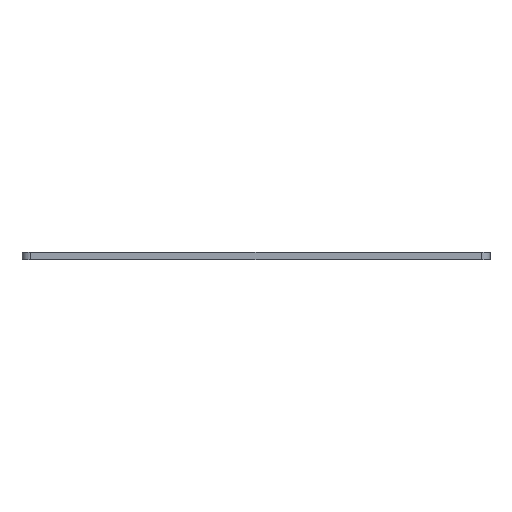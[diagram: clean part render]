
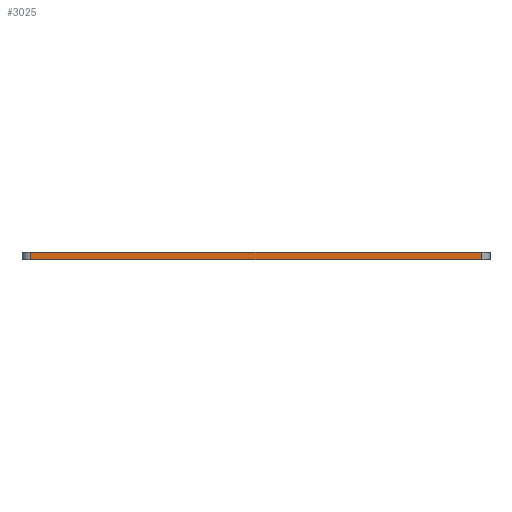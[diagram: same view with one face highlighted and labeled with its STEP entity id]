
A CAD part, left-side view. The second image highlights one B-rep face of the part: STEP entity #3025.
In plain terms, the highlighted planar face has unit normal (-1, 0, 0).
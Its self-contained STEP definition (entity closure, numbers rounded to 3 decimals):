
#43 = PLANE('',#44);
#44 = AXIS2_PLACEMENT_3D('',#45,#46,#47);
#45 = CARTESIAN_POINT('',(53.3,53.3,1.6));
#46 = DIRECTION('',(0.,0.,-1.));
#47 = DIRECTION('',(-1.,0.,0.));
#182 = VERTEX_POINT('',#183);
#183 = CARTESIAN_POINT('',(-53.3,-51.3,1.6));
#202 = CYLINDRICAL_SURFACE('',#203,2.);
#203 = AXIS2_PLACEMENT_3D('',#204,#205,#206);
#204 = CARTESIAN_POINT('',(-51.3,-51.3,0.));
#205 = DIRECTION('',(0.,0.,1.));
#206 = DIRECTION('',(-1.,0.,0.));
#214 = EDGE_CURVE('',#215,#182,#217,.T.);
#215 = VERTEX_POINT('',#216);
#216 = CARTESIAN_POINT('',(-53.3,51.3,1.6));
#217 = SURFACE_CURVE('',#218,(#222,#229),.PCURVE_S1.);
#218 = LINE('',#219,#220);
#219 = CARTESIAN_POINT('',(-53.3,53.3,1.6));
#220 = VECTOR('',#221,1.);
#221 = DIRECTION('',(0.,-1.,0.));
#222 = PCURVE('',#43,#223);
#223 = DEFINITIONAL_REPRESENTATION('',(#224),#228);
#224 = LINE('',#225,#226);
#225 = CARTESIAN_POINT('',(106.6,0.));
#226 = VECTOR('',#227,1.);
#227 = DIRECTION('',(0.,-1.));
#228 = ( GEOMETRIC_REPRESENTATION_CONTEXT(2) 
PARAMETRIC_REPRESENTATION_CONTEXT() REPRESENTATION_CONTEXT('2D SPACE',''
  ) );
#229 = PCURVE('',#230,#235);
#230 = PLANE('',#231);
#231 = AXIS2_PLACEMENT_3D('',#232,#233,#234);
#232 = CARTESIAN_POINT('',(-53.3,53.3,0.));
#233 = DIRECTION('',(1.,0.,0.));
#234 = DIRECTION('',(0.,-1.,0.));
#235 = DEFINITIONAL_REPRESENTATION('',(#236),#240);
#236 = LINE('',#237,#238);
#237 = CARTESIAN_POINT('',(0.,-1.6));
#238 = VECTOR('',#239,1.);
#239 = DIRECTION('',(1.,0.));
#240 = ( GEOMETRIC_REPRESENTATION_CONTEXT(2) 
PARAMETRIC_REPRESENTATION_CONTEXT() REPRESENTATION_CONTEXT('2D SPACE',''
  ) );
#261 = CYLINDRICAL_SURFACE('',#262,2.);
#262 = AXIS2_PLACEMENT_3D('',#263,#264,#265);
#263 = CARTESIAN_POINT('',(-51.3,51.3,0.));
#264 = DIRECTION('',(0.,0.,1.));
#265 = DIRECTION('',(0.,1.,0.));
#2818 = PLANE('',#2819);
#2819 = AXIS2_PLACEMENT_3D('',#2820,#2821,#2822);
#2820 = CARTESIAN_POINT('',(53.3,53.3,0.));
#2821 = DIRECTION('',(0.,0.,-1.));
#2822 = DIRECTION('',(-1.,0.,0.));
#2927 = VERTEX_POINT('',#2928);
#2928 = CARTESIAN_POINT('',(-53.3,51.3,0.));
#2954 = EDGE_CURVE('',#2927,#215,#2955,.T.);
#2955 = SURFACE_CURVE('',#2956,(#2960,#2967),.PCURVE_S1.);
#2956 = LINE('',#2957,#2958);
#2957 = CARTESIAN_POINT('',(-53.3,51.3,0.));
#2958 = VECTOR('',#2959,1.);
#2959 = DIRECTION('',(0.,0.,1.));
#2960 = PCURVE('',#261,#2961);
#2961 = DEFINITIONAL_REPRESENTATION('',(#2962),#2966);
#2962 = LINE('',#2963,#2964);
#2963 = CARTESIAN_POINT('',(1.571,0.));
#2964 = VECTOR('',#2965,1.);
#2965 = DIRECTION('',(0.,1.));
#2966 = ( GEOMETRIC_REPRESENTATION_CONTEXT(2) 
PARAMETRIC_REPRESENTATION_CONTEXT() REPRESENTATION_CONTEXT('2D SPACE',''
  ) );
#2967 = PCURVE('',#230,#2968);
#2968 = DEFINITIONAL_REPRESENTATION('',(#2969),#2973);
#2969 = LINE('',#2970,#2971);
#2970 = CARTESIAN_POINT('',(2.,0.));
#2971 = VECTOR('',#2972,1.);
#2972 = DIRECTION('',(0.,-1.));
#2973 = ( GEOMETRIC_REPRESENTATION_CONTEXT(2) 
PARAMETRIC_REPRESENTATION_CONTEXT() REPRESENTATION_CONTEXT('2D SPACE',''
  ) );
#3025 = ADVANCED_FACE('',(#3026),#230,.F.);
#3026 = FACE_BOUND('',#3027,.F.);
#3027 = EDGE_LOOP('',(#3028,#3051,#3052,#3053));
#3028 = ORIENTED_EDGE('',*,*,#3029,.F.);
#3029 = EDGE_CURVE('',#2927,#3030,#3032,.T.);
#3030 = VERTEX_POINT('',#3031);
#3031 = CARTESIAN_POINT('',(-53.3,-51.3,0.));
#3032 = SURFACE_CURVE('',#3033,(#3037,#3044),.PCURVE_S1.);
#3033 = LINE('',#3034,#3035);
#3034 = CARTESIAN_POINT('',(-53.3,53.3,0.));
#3035 = VECTOR('',#3036,1.);
#3036 = DIRECTION('',(0.,-1.,0.));
#3037 = PCURVE('',#230,#3038);
#3038 = DEFINITIONAL_REPRESENTATION('',(#3039),#3043);
#3039 = LINE('',#3040,#3041);
#3040 = CARTESIAN_POINT('',(0.,0.));
#3041 = VECTOR('',#3042,1.);
#3042 = DIRECTION('',(1.,0.));
#3043 = ( GEOMETRIC_REPRESENTATION_CONTEXT(2) 
PARAMETRIC_REPRESENTATION_CONTEXT() REPRESENTATION_CONTEXT('2D SPACE',''
  ) );
#3044 = PCURVE('',#2818,#3045);
#3045 = DEFINITIONAL_REPRESENTATION('',(#3046),#3050);
#3046 = LINE('',#3047,#3048);
#3047 = CARTESIAN_POINT('',(106.6,0.));
#3048 = VECTOR('',#3049,1.);
#3049 = DIRECTION('',(0.,-1.));
#3050 = ( GEOMETRIC_REPRESENTATION_CONTEXT(2) 
PARAMETRIC_REPRESENTATION_CONTEXT() REPRESENTATION_CONTEXT('2D SPACE',''
  ) );
#3051 = ORIENTED_EDGE('',*,*,#2954,.T.);
#3052 = ORIENTED_EDGE('',*,*,#214,.T.);
#3053 = ORIENTED_EDGE('',*,*,#3054,.F.);
#3054 = EDGE_CURVE('',#3030,#182,#3055,.T.);
#3055 = SURFACE_CURVE('',#3056,(#3060,#3067),.PCURVE_S1.);
#3056 = LINE('',#3057,#3058);
#3057 = CARTESIAN_POINT('',(-53.3,-51.3,0.));
#3058 = VECTOR('',#3059,1.);
#3059 = DIRECTION('',(0.,0.,1.));
#3060 = PCURVE('',#230,#3061);
#3061 = DEFINITIONAL_REPRESENTATION('',(#3062),#3066);
#3062 = LINE('',#3063,#3064);
#3063 = CARTESIAN_POINT('',(104.6,-0.));
#3064 = VECTOR('',#3065,1.);
#3065 = DIRECTION('',(0.,-1.));
#3066 = ( GEOMETRIC_REPRESENTATION_CONTEXT(2) 
PARAMETRIC_REPRESENTATION_CONTEXT() REPRESENTATION_CONTEXT('2D SPACE',''
  ) );
#3067 = PCURVE('',#202,#3068);
#3068 = DEFINITIONAL_REPRESENTATION('',(#3069),#3073);
#3069 = LINE('',#3070,#3071);
#3070 = CARTESIAN_POINT('',(0.,0.));
#3071 = VECTOR('',#3072,1.);
#3072 = DIRECTION('',(0.,1.));
#3073 = ( GEOMETRIC_REPRESENTATION_CONTEXT(2) 
PARAMETRIC_REPRESENTATION_CONTEXT() REPRESENTATION_CONTEXT('2D SPACE',''
  ) );
